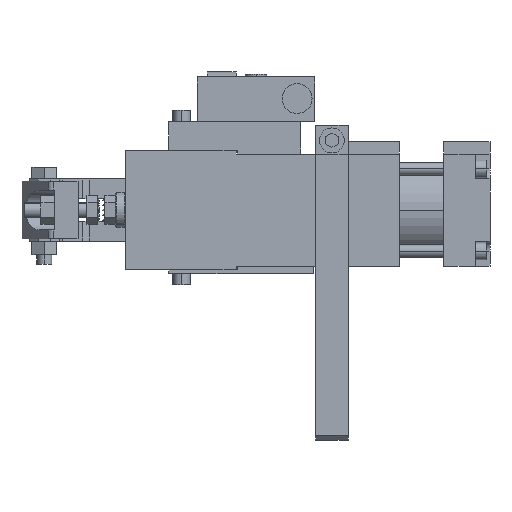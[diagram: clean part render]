
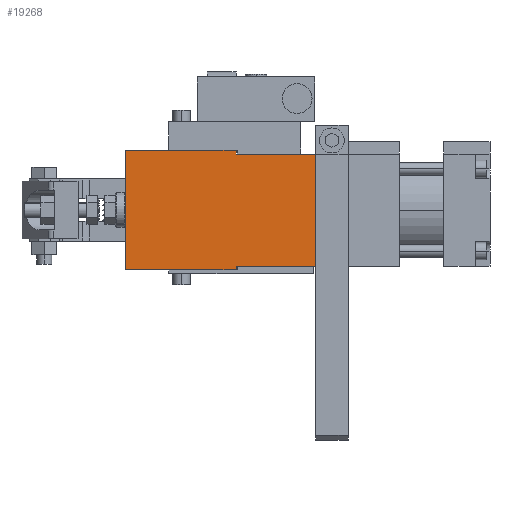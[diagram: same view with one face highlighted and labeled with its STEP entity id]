
A CAD part, left-side view. The second image highlights one B-rep face of the part: STEP entity #19268.
In plain terms, the highlighted planar face has unit normal (-1, 0, 0).
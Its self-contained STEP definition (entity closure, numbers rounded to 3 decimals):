
#1232 = LINE ( 'NONE', #4510, #16379 ) ;
#1328 = VERTEX_POINT ( 'NONE', #16669 ) ;
#1505 = VECTOR ( 'NONE', #5470, 1000. ) ;
#1669 = CARTESIAN_POINT ( 'NONE',  ( -22.5, 36.5, 24. ) ) ;
#2035 = EDGE_CURVE ( 'NONE', #6323, #7288, #3983, .T. ) ;
#2545 = VECTOR ( 'NONE', #5622, 1000. ) ;
#2590 = VECTOR ( 'NONE', #23270, 1000. ) ;
#2900 = FACE_OUTER_BOUND ( 'NONE', #17726, .T. ) ;
#3152 = LINE ( 'NONE', #15626, #2590 ) ;
#3366 = VECTOR ( 'NONE', #19418, 1000. ) ;
#3641 = VERTEX_POINT ( 'NONE', #6553 ) ;
#3910 = DIRECTION ( 'NONE',  ( 1., 0., 0. ) ) ;
#3983 = LINE ( 'NONE', #23251, #3366 ) ;
#4357 = DIRECTION ( 'NONE',  ( 0., -1., 0. ) ) ;
#4510 = CARTESIAN_POINT ( 'NONE',  ( -22.5, 22., -24. ) ) ;
#4576 = ORIENTED_EDGE ( 'NONE', *, *, #7744, .F. ) ;
#5086 = DIRECTION ( 'NONE',  ( 0., -1., 0. ) ) ;
#5404 = CARTESIAN_POINT ( 'NONE',  ( -22.5, -8., -24. ) ) ;
#5470 = DIRECTION ( 'NONE',  ( 0., 0., 1. ) ) ;
#5622 = DIRECTION ( 'NONE',  ( 0., -1., 0. ) ) ;
#5963 = LINE ( 'NONE', #1669, #1505 ) ;
#6323 = VERTEX_POINT ( 'NONE', #20850 ) ;
#6553 = CARTESIAN_POINT ( 'NONE',  ( -22.5, -8., -24. ) ) ;
#6802 = ORIENTED_EDGE ( 'NONE', *, *, #23654, .F. ) ;
#7288 = VERTEX_POINT ( 'NONE', #12787 ) ;
#7744 = EDGE_CURVE ( 'NONE', #18449, #1328, #22113, .T. ) ;
#8290 = CARTESIAN_POINT ( 'NONE',  ( -22.5, 36.5, 24. ) ) ;
#8345 = ORIENTED_EDGE ( 'NONE', *, *, #19617, .T. ) ;
#10158 = VERTEX_POINT ( 'NONE', #24507 ) ;
#10827 = LINE ( 'NONE', #22108, #16660 ) ;
#11041 = VERTEX_POINT ( 'NONE', #19205 ) ;
#11089 = ORIENTED_EDGE ( 'NONE', *, *, #18139, .F. ) ;
#11195 = EDGE_CURVE ( 'NONE', #10158, #3641, #1232, .T. ) ;
#11253 = LINE ( 'NONE', #23278, #20768 ) ;
#11472 = PLANE ( 'NONE',  #14219 ) ;
#11962 = ORIENTED_EDGE ( 'NONE', *, *, #11195, .T. ) ;
#12121 = EDGE_CURVE ( 'NONE', #11041, #7288, #11253, .T. ) ;
#12787 = CARTESIAN_POINT ( 'NONE',  ( -22.5, -40., -22.5 ) ) ;
#13366 = CARTESIAN_POINT ( 'NONE',  ( -22.5, 22., 12.5 ) ) ;
#14219 = AXIS2_PLACEMENT_3D ( 'NONE', #13366, #3910, #17194 ) ;
#14766 = LINE ( 'NONE', #5404, #15377 ) ;
#14829 = VERTEX_POINT ( 'NONE', #23545 ) ;
#14851 = ORIENTED_EDGE ( 'NONE', *, *, #20798, .F. ) ;
#15377 = VECTOR ( 'NONE', #18654, 1000. ) ;
#15626 = CARTESIAN_POINT ( 'NONE',  ( -22.5, -8., 24. ) ) ;
#16379 = VECTOR ( 'NONE', #17765, 1000. ) ;
#16660 = VECTOR ( 'NONE', #5086, 1000. ) ;
#16669 = CARTESIAN_POINT ( 'NONE',  ( -22.5, -8., 24. ) ) ;
#17194 = DIRECTION ( 'NONE',  ( 0., 1., 0. ) ) ;
#17726 = EDGE_LOOP ( 'NONE', ( #4576, #11089, #11962, #8345, #19950, #20868, #14851, #6802 ) ) ;
#17765 = DIRECTION ( 'NONE',  ( 0., -1., 0. ) ) ;
#18139 = EDGE_CURVE ( 'NONE', #10158, #18449, #5963, .T. ) ;
#18449 = VERTEX_POINT ( 'NONE', #8290 ) ;
#18654 = DIRECTION ( 'NONE',  ( 0., 0., 1. ) ) ;
#18881 = CARTESIAN_POINT ( 'NONE',  ( -22.5, 22., 24. ) ) ;
#19205 = CARTESIAN_POINT ( 'NONE',  ( -22.5, -8., -22.5 ) ) ;
#19268 = ADVANCED_FACE ( 'NONE', ( #2900 ), #11472, .F. ) ;
#19418 = DIRECTION ( 'NONE',  ( 0., 0., -1. ) ) ;
#19617 = EDGE_CURVE ( 'NONE', #3641, #11041, #14766, .T. ) ;
#19950 = ORIENTED_EDGE ( 'NONE', *, *, #12121, .T. ) ;
#20768 = VECTOR ( 'NONE', #4357, 1000. ) ;
#20798 = EDGE_CURVE ( 'NONE', #14829, #6323, #10827, .T. ) ;
#20850 = CARTESIAN_POINT ( 'NONE',  ( -22.5, -40., 22.5 ) ) ;
#20868 = ORIENTED_EDGE ( 'NONE', *, *, #2035, .F. ) ;
#22108 = CARTESIAN_POINT ( 'NONE',  ( -22.5, 22., 22.5 ) ) ;
#22113 = LINE ( 'NONE', #18881, #2545 ) ;
#23251 = CARTESIAN_POINT ( 'NONE',  ( -22.5, -40., 12.5 ) ) ;
#23270 = DIRECTION ( 'NONE',  ( 0., 0., -1. ) ) ;
#23278 = CARTESIAN_POINT ( 'NONE',  ( -22.5, 22., -22.5 ) ) ;
#23545 = CARTESIAN_POINT ( 'NONE',  ( -22.5, -8., 22.5 ) ) ;
#23654 = EDGE_CURVE ( 'NONE', #1328, #14829, #3152, .T. ) ;
#24507 = CARTESIAN_POINT ( 'NONE',  ( -22.5, 36.5, -24. ) ) ;
